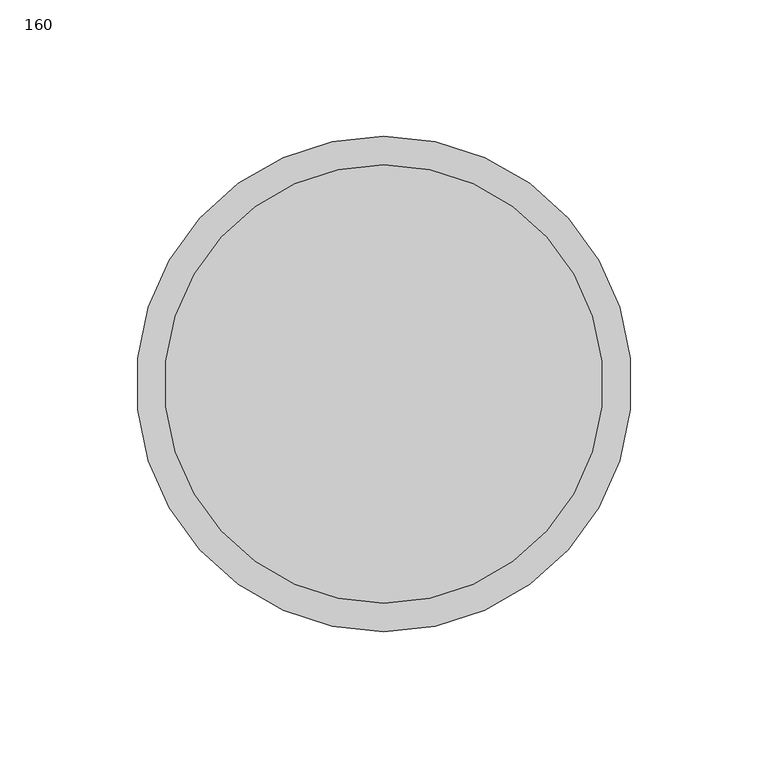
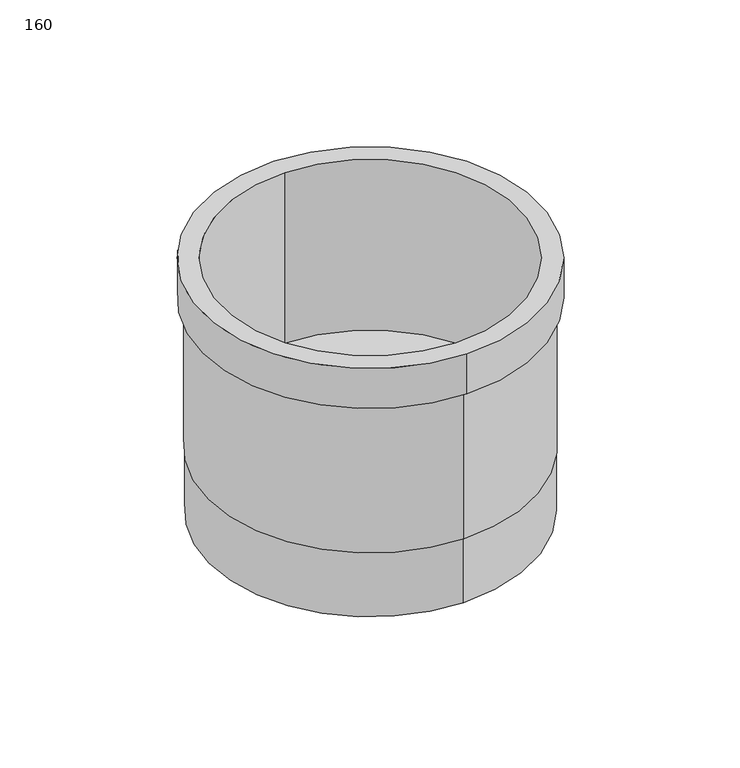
"""IFC4 building model written with IfcOpenShell, lengths in millimetres: pipe fitting geometry, Pipelife - Pragma OD - Mufa rotacyjna kanalizacyjna : 160."""

from ifc_helpers import new_model, si_unit, frame, origin, origin_with_axes, place, context, project, spatial, polyline, circle_curve, source, transform, mapped, element, save
from ifc_brep_helpers import plane_surface, cylinder_surface, revolved_surface, advanced_brep


def pipe_fitting_160_3ae30848(model_context):
    return source(origin(), model_context, "Body", "AdvancedBrep", [
        advanced_brep(
        [(0.0, -91.0, 0.0), (0.0, 91.0, 0.0), (0.0, 80.5, 0.0), (0.0, -80.5, 0.0), (0.0, -88.0, -108.0), (0.0, 88.0, -108.0), (0.0, -87.5, -108.0), (0.0, 87.5, -108.0), (0.0, 88.0, -23.0), (0.0, -88.0, -23.0), (0.0, -80.5, -98.0), (0.0, 80.5, -98.0), (0.0, -91.0, -23.0), (0.0, 91.0, -23.0), (0.0, -87.5, -145.0), (0.0, 87.5, -145.0), (0.0, -78.0, -145.0), (0.0, 78.0, -145.0), (0.0, -78.0, -113.0), (0.0, 78.0, -113.0)],
        [
            (0, 1, circle_curve(frame((0.0, 0.0, 0.0), z_axis=(0.0, 0.0, 1.0), x_axis=(0.0, 1.0, 0.0)), 91.0)),
            (1, 0, circle_curve(frame((0.0, 0.0, 0.0), z_axis=(0.0, 0.0, 1.0), x_axis=(0.0, 1.0, 0.0)), 91.0)),
            (2, 3, circle_curve(frame((0.0, 0.0, 0.0), z_axis=(0.0, 0.0, -1.0), x_axis=(0.0, 1.0, 0.0)), 80.5)),
            (3, 2, circle_curve(frame((0.0, 0.0, 0.0), z_axis=(0.0, 0.0, -1.0), x_axis=(0.0, 1.0, 0.0)), 80.5)),
            (4, 5, circle_curve(frame((0.0, 0.0, -108.0), z_axis=(0.0, 0.0, -1.0), x_axis=(0.0, 1.0, 0.0)), 88.0)),
            (5, 4, circle_curve(frame((0.0, 0.0, -108.0), z_axis=(0.0, 0.0, -1.0), x_axis=(0.0, 1.0, 0.0)), 88.0)),
            (6, 7, circle_curve(frame((0.0, 0.0, -108.0), z_axis=(0.0, 0.0, 1.0), x_axis=(0.0, 1.0, 0.0)), 87.5)),
            (7, 6, circle_curve(frame((0.0, 0.0, -108.0), z_axis=(0.0, 0.0, 1.0), x_axis=(0.0, 1.0, 0.0)), 87.5)),
            (5, 8),
            (8, 9, circle_curve(frame((0.0, 0.0, -23.0), z_axis=(0.0, 0.0, -1.0), x_axis=(0.0, 1.0, 0.0)), 88.0)),
            (9, 4),
            (9, 8, circle_curve(frame((0.0, 0.0, -23.0), z_axis=(0.0, 0.0, -1.0), x_axis=(0.0, 1.0, 0.0)), 88.0)),
            (10, 11, circle_curve(frame((0.0, 0.0, -98.0), z_axis=(0.0, 0.0, 1.0), x_axis=(0.0, 1.0, 0.0)), 80.5)),
            (11, 10, circle_curve(frame((0.0, 0.0, -98.0), z_axis=(0.0, 0.0, 1.0), x_axis=(0.0, 1.0, 0.0)), 80.5)),
            (10, 3),
            (2, 11),
            (12, 13, circle_curve(frame((0.0, 0.0, -23.0), z_axis=(0.0, 0.0, -1.0), x_axis=(0.0, 1.0, 0.0)), 91.0)),
            (13, 12, circle_curve(frame((0.0, 0.0, -23.0), z_axis=(0.0, 0.0, -1.0), x_axis=(0.0, 1.0, 0.0)), 91.0)),
            (0, 12),
            (13, 1),
            (14, 15, circle_curve(frame((0.0, 0.0, -145.0), z_axis=(0.0, 0.0, -1.0), x_axis=(0.0, 1.0, 0.0)), 87.5)),
            (15, 14, circle_curve(frame((0.0, 0.0, -145.0), z_axis=(0.0, 0.0, -1.0), x_axis=(0.0, 1.0, 0.0)), 87.5)),
            (16, 17, circle_curve(frame((0.0, 0.0, -145.0), z_axis=(0.0, 0.0, 1.0), x_axis=(0.0, 1.0, 0.0)), 78.0)),
            (17, 16, circle_curve(frame((0.0, 0.0, -145.0), z_axis=(0.0, 0.0, 1.0), x_axis=(0.0, 1.0, 0.0)), 78.0)),
            (15, 7),
            (6, 14),
            (18, 19, circle_curve(frame((0.0, 0.0, -113.0), z_axis=(0.0, 0.0, -1.0), x_axis=(0.0, 1.0, 0.0)), 78.0)),
            (19, 18, circle_curve(frame((0.0, 0.0, -113.0), z_axis=(0.0, 0.0, -1.0), x_axis=(0.0, 1.0, 0.0)), 78.0)),
            (19, 17),
            (16, 18),
        ],
        [
            plane_surface(origin_with_axes()),
            plane_surface(frame((0.0, 0.0, -108.0), z_axis=(0.0, 0.0, -1.0), x_axis=(1.0, 0.0, 0.0))),
            cylinder_surface(frame((0.0, 0.0, 0.0), z_axis=(0.0, 0.0, 1.0), x_axis=(0.0, 1.0, 0.0)), 88.0),
            plane_surface(frame((0.0, 0.0, -98.0), z_axis=(0.0, 0.0, 1.0), x_axis=(1.0, 0.0, 0.0))),
            revolved_surface(polyline([(0.0, 80.5, 0.0), (0.0, 80.5, -98.0)]), (0.0, 0.0, 0.0), (0.0, 0.0, 1.0)),
            plane_surface(frame((0.0, 0.0, -23.0), z_axis=(0.0, 0.0, -1.0), x_axis=(1.0, 0.0, 0.0))),
            cylinder_surface(frame((0.0, 0.0, 0.0), z_axis=(0.0, 0.0, 1.0), x_axis=(0.0, 1.0, 0.0)), 91.0),
            plane_surface(frame((0.0, 0.0, -145.0), z_axis=(0.0, 0.0, -1.0), x_axis=(1.0, 0.0, 0.0))),
            cylinder_surface(frame((0.0, 0.0, -108.0), z_axis=(0.0, 0.0, 1.0), x_axis=(0.0, 1.0, 0.0)), 87.5),
            plane_surface(frame((0.0, 0.0, -113.0), z_axis=(0.0, 0.0, -1.0), x_axis=(1.0, 0.0, 0.0))),
            revolved_surface(polyline([(0.0, 78.0, -113.0), (0.0, 78.0, -145.0)]), (0.0, 0.0, -113.0), (0.0, 0.0, 1.0)),
        ],
        [
            (0, [[1, 2], [3, 4]]),
            (1, [[5, 6], [7, 8]]),
            (2, [[-6, 9, 10, 11]]),
            (2, [[-5, -11, 12, -9]]),
            (3, [[13, 14]]),
            (4, [[-13, 15, -3, 16]]),
            (4, [[-14, -16, -4, -15]]),
            (5, [[17, 18], [-10, -12]]),
            (6, [[-1, 19, -18, 20]]),
            (6, [[-2, -20, -17, -19]]),
            (7, [[21, 22], [23, 24]]),
            (8, [[-22, 25, -7, 26]]),
            (8, [[-21, -26, -8, -25]]),
            (9, [[27, 28]]),
            (10, [[-28, 29, -23, 30]]),
            (10, [[-27, -30, -24, -29]]),
        ],
    ),
    ])


if __name__ == "__main__":
    model = new_model("IFC4")
    model_context = context("Model", 3, world=origin())
    ifc_project = project(units=[si_unit("LENGTHUNIT", "METRE", prefix="MILLI")], contexts=[model_context])
    site = spatial("IfcSite", under=ifc_project)
    building = spatial("IfcBuilding", under=site)
    placement = place(None, origin())
    pipe_fitting_160_shape = pipe_fitting_160_3ae30848(model_context)
    element("IfcPipeFitting", 1, ObjectType="Pipelife - Pragma OD - Mufa rotacyjna kanalizacyjna : 160", at=placement, inside=building, context=model_context, shape_type="MappedRepresentation", body=[
        mapped(pipe_fitting_160_shape, transform((0.0, 0.0, 0.0), x_axis=(1.0, 0.0, 0.0), y_axis=(0.0, 1.0, 0.0), z_axis=(0.0, 0.0, 1.0))),
    ])
    save(model, "model.ifc")
